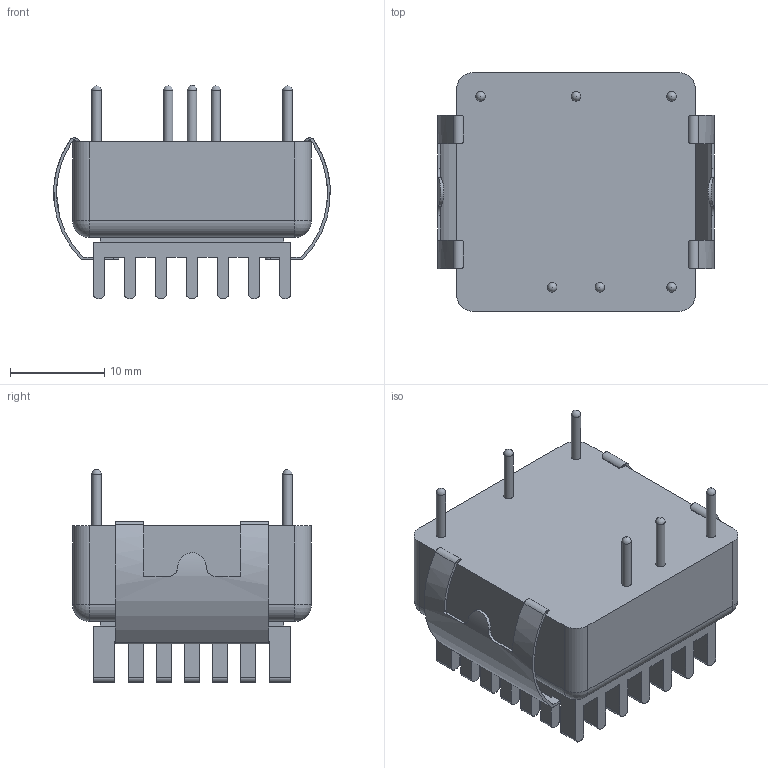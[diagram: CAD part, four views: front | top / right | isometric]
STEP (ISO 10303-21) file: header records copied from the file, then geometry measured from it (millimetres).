
FILE_DESCRIPTION(/* description */ (''),/* implementation_level */ '2;1');
FILE_NAME(/* name */ 'C:\Users\Calliope\Desktop\THL 15WI-HS.stp',/* time_stamp */ '2019-04-17T08:20:03+08:00',/* author */ ('Calliope'),/* organization */ (''),/* preprocessor_version */ 'ST-DEVELOPER v15.6',/* originating_system */ 'Autodesk Inventor 2015',/* authorisation */ '');
FILE_SCHEMA (('AUTOMOTIVE_DESIGN { 1 0 10303 214 3 1 1 }'));
Length unit declared in the file: millimetre
Products named in the file (1): THL 15WI-HS
Bounding box: 29.42 x 25.4 x 22.66 mm (x, y, z)
Volume: 7969.1 mm3; surface area: 4668 mm2
Topology: 1 solids, 1 shells, 457 faces, 1266 edges, 828 vertices
Faces by surface type: plane 293, cylinder 154, sphere 10
Full cylindrical faces by diameter (mm): 1 x6
Entity records: 14616 total; most frequent: CARTESIAN_POINT 2796, ORIENTED_EDGE 2476, DIRECTION 2438, EDGE_CURVE 1238, LINE 898, VECTOR 898, VERTEX_POINT 816, AXIS2_PLACEMENT_3D 770
